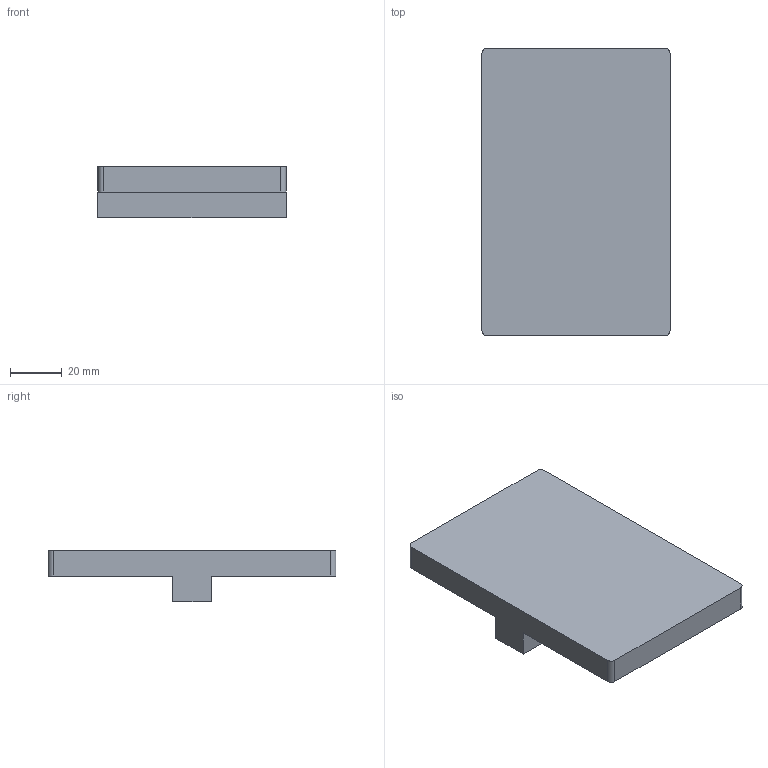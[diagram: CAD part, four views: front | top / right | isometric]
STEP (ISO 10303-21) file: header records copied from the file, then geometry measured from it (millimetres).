
FILE_DESCRIPTION (( 'STEP AP214' ), '1' );
FILE_NAME ('FM3 Press Out Top Fixture.STEP', '2021-01-13T16:43:31', ( '' ), ( '' ), 'SwSTEP 2.0', 'SolidWorks 2018', '' );
FILE_SCHEMA (( 'AUTOMOTIVE_DESIGN' ));
Length unit declared in the file: millimetre
Products named in the file (1): FM3 Press Out Top Fixture
Bounding box: 72.4 x 110.75 x 20 mm (x, y, z)
Volume: 91008.7 mm3; surface area: 21406.4 mm2
Topology: 1 solids, 1 shells, 14 faces, 36 edges, 24 vertices
Faces by surface type: plane 10, cylinder 4
Entity records: 462 total; most frequent: CARTESIAN_POINT 75, DIRECTION 74, ORIENTED_EDGE 72, EDGE_CURVE 36, LINE 28, VECTOR 28, VERTEX_POINT 24, AXIS2_PLACEMENT_3D 23
